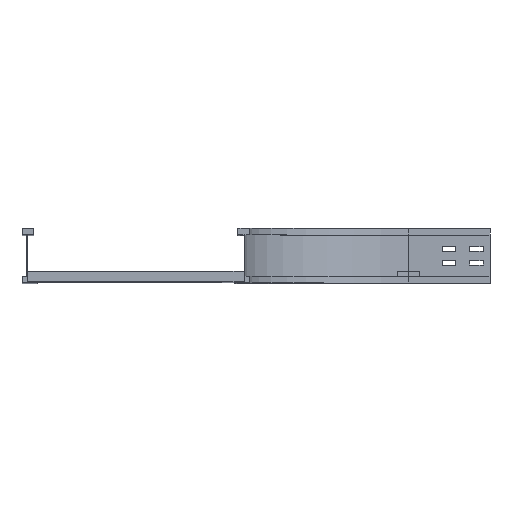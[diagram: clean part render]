
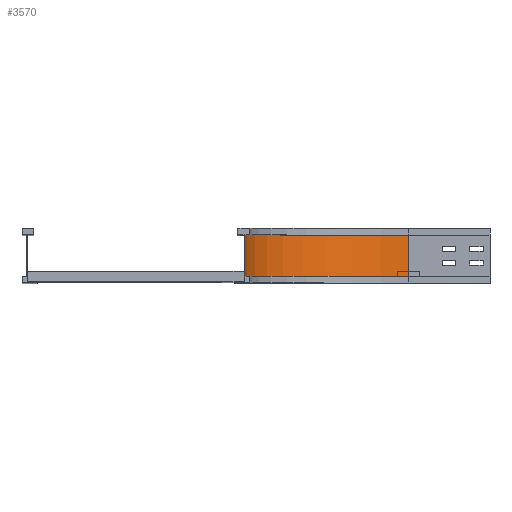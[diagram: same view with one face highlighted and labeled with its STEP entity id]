
A CAD part, top view. The second image highlights one B-rep face of the part: STEP entity #3570.
In plain terms, the highlighted cylindrical face has radius 300 mm (diameter 600 mm), a partial arc.
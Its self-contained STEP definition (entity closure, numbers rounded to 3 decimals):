
#113 = DIRECTION ( 'NONE',  ( 0., 1., 0. ) ) ;
#148 = EDGE_LOOP ( 'NONE', ( #1956, #2017, #2074, #3101 ) ) ;
#256 = EDGE_CURVE ( 'NONE', #3105, #1086, #3615, .T. ) ;
#289 = CARTESIAN_POINT ( 'NONE',  ( 291., 12., -450. ) ) ;
#322 = DIRECTION ( 'NONE',  ( -1., 0., 0. ) ) ;
#543 = DIRECTION ( 'NONE',  ( 0., 0., -1. ) ) ;
#654 = EDGE_CURVE ( 'NONE', #2591, #1512, #894, .T. ) ;
#733 = VECTOR ( 'NONE', #3929, 1000. ) ;
#753 = LINE ( 'NONE', #2438, #3427 ) ;
#894 = CIRCLE ( 'NONE', #3123, 300. ) ;
#966 = AXIS2_PLACEMENT_3D ( 'NONE', #3716, #1007, #322 ) ;
#1007 = DIRECTION ( 'NONE',  ( 0., -1., 0. ) ) ;
#1086 = VERTEX_POINT ( 'NONE', #2642 ) ;
#1512 = VERTEX_POINT ( 'NONE', #289 ) ;
#1578 = DIRECTION ( 'NONE',  ( 0., -1., 0. ) ) ;
#1611 = EDGE_CURVE ( 'NONE', #1512, #1086, #753, .T. ) ;
#1956 = ORIENTED_EDGE ( 'NONE', *, *, #256, .F. ) ;
#2017 = ORIENTED_EDGE ( 'NONE', *, *, #4104, .F. ) ;
#2074 = ORIENTED_EDGE ( 'NONE', *, *, #654, .T. ) ;
#2086 = CARTESIAN_POINT ( 'NONE',  ( -9., 88., -150. ) ) ;
#2194 = FACE_OUTER_BOUND ( 'NONE', #148, .T. ) ;
#2380 = CARTESIAN_POINT ( 'NONE',  ( -9., 12., -150. ) ) ;
#2438 = CARTESIAN_POINT ( 'NONE',  ( 291., 12., -450. ) ) ;
#2540 = DIRECTION ( 'NONE',  ( 0., -1., 0. ) ) ;
#2591 = VERTEX_POINT ( 'NONE', #2380 ) ;
#2642 = CARTESIAN_POINT ( 'NONE',  ( 291., 88., -450. ) ) ;
#2914 = DIRECTION ( 'NONE',  ( -1., 0., 0. ) ) ;
#2947 = CARTESIAN_POINT ( 'NONE',  ( -9., 12., -150. ) ) ;
#2961 = AXIS2_PLACEMENT_3D ( 'NONE', #3523, #2540, #543 ) ;
#3101 = ORIENTED_EDGE ( 'NONE', *, *, #1611, .T. ) ;
#3105 = VERTEX_POINT ( 'NONE', #2086 ) ;
#3123 = AXIS2_PLACEMENT_3D ( 'NONE', #4310, #1578, #2914 ) ;
#3249 = LINE ( 'NONE', #2947, #733 ) ;
#3427 = VECTOR ( 'NONE', #113, 1000. ) ;
#3523 = CARTESIAN_POINT ( 'NONE',  ( 291., 0., -150. ) ) ;
#3570 = ADVANCED_FACE ( 'NONE', ( #2194 ), #3827, .F. ) ;
#3615 = CIRCLE ( 'NONE', #966, 300. ) ;
#3716 = CARTESIAN_POINT ( 'NONE',  ( 291., 88., -150. ) ) ;
#3827 = CYLINDRICAL_SURFACE ( 'NONE', #2961, 300. ) ;
#3929 = DIRECTION ( 'NONE',  ( 0., 1., 0. ) ) ;
#4104 = EDGE_CURVE ( 'NONE', #2591, #3105, #3249, .T. ) ;
#4310 = CARTESIAN_POINT ( 'NONE',  ( 291., 12., -150. ) ) ;
